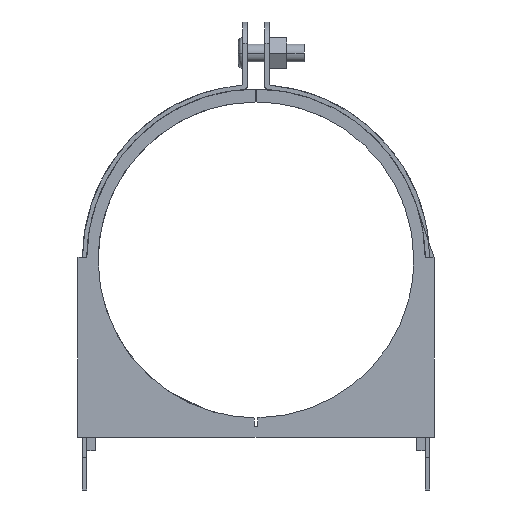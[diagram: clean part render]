
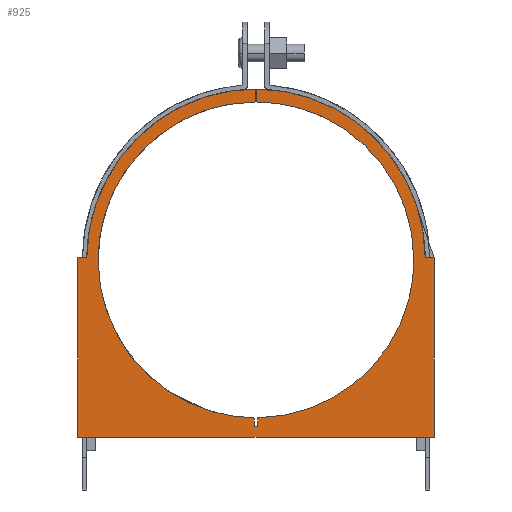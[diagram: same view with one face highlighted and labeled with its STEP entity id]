
A CAD part, front view. The second image highlights one B-rep face of the part: STEP entity #925.
In plain terms, the highlighted planar face has unit normal (0, -1, 0).
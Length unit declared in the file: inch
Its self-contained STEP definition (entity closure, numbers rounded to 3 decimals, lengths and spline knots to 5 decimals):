
#925=ADVANCED_FACE('',(#1836),#1837,.T.);
#1836=FACE_OUTER_BOUND('',#3635,.T.);
#1837=PLANE('',#3636);
#3635=EDGE_LOOP('',(#5039,#5040,#5041,#5042,#5043,#5044,#5045,#5046,#5047,#5048,#5049,#5050,#5051,#5052,#5053,#5054,#5055));
#3636=AXIS2_PLACEMENT_3D('',#5056,#5057,#5058);
#5039=ORIENTED_EDGE('',*,*,#5450,.F.);
#5040=ORIENTED_EDGE('',*,*,#5338,.F.);
#5041=ORIENTED_EDGE('',*,*,#5506,.F.);
#5042=ORIENTED_EDGE('',*,*,#5351,.F.);
#5043=ORIENTED_EDGE('',*,*,#5408,.F.);
#5044=ORIENTED_EDGE('',*,*,#5190,.F.);
#5045=ORIENTED_EDGE('',*,*,#5522,.F.);
#5046=ORIENTED_EDGE('',*,*,#5368,.F.);
#5047=ORIENTED_EDGE('',*,*,#5209,.F.);
#5048=ORIENTED_EDGE('',*,*,#5363,.F.);
#5049=ORIENTED_EDGE('',*,*,#5515,.F.);
#5050=ORIENTED_EDGE('',*,*,#5282,.F.);
#5051=ORIENTED_EDGE('',*,*,#5503,.F.);
#5052=ORIENTED_EDGE('',*,*,#5496,.F.);
#5053=ORIENTED_EDGE('',*,*,#5518,.F.);
#5054=ORIENTED_EDGE('',*,*,#5416,.F.);
#5055=ORIENTED_EDGE('',*,*,#5388,.F.);
#5056=CARTESIAN_POINT('',(2.47504,-0.125,3.05296));
#5057=DIRECTION('',(0.0,-1.0,0.0));
#5058=DIRECTION('',(1.0,0.0,0.0));
#5190=EDGE_CURVE('',#5574,#5575,#5576,.T.);
#5209=EDGE_CURVE('',#5604,#5605,#5606,.T.);
#5282=EDGE_CURVE('',#5724,#5725,#5726,.T.);
#5338=EDGE_CURVE('',#5810,#5811,#5812,.T.);
#5351=EDGE_CURVE('',#5830,#5831,#5832,.T.);
#5363=EDGE_CURVE('',#5847,#5604,#5848,.T.);
#5368=EDGE_CURVE('',#5605,#5854,#5855,.T.);
#5388=EDGE_CURVE('',#5880,#5881,#5882,.T.);
#5408=EDGE_CURVE('',#5575,#5830,#5909,.T.);
#5416=EDGE_CURVE('',#5881,#5919,#5920,.T.);
#5450=EDGE_CURVE('',#5811,#5880,#5961,.T.);
#5496=EDGE_CURVE('',#6011,#6012,#6013,.T.);
#5503=EDGE_CURVE('',#6012,#5724,#6020,.T.);
#5506=EDGE_CURVE('',#5831,#5810,#6023,.T.);
#5515=EDGE_CURVE('',#5725,#5847,#6032,.T.);
#5518=EDGE_CURVE('',#5919,#6011,#6035,.T.);
#5522=EDGE_CURVE('',#5854,#5574,#6039,.T.);
#5574=VERTEX_POINT('',#6100);
#5575=VERTEX_POINT('',#6101);
#5576=LINE('',#6102,#6103);
#5604=VERTEX_POINT('',#6169);
#5605=VERTEX_POINT('',#6170);
#5606=LINE('',#6171,#6172);
#5724=VERTEX_POINT('',#6400);
#5725=VERTEX_POINT('',#6401);
#5726=LINE('',#6402,#6403);
#5810=VERTEX_POINT('',#6548);
#5811=VERTEX_POINT('',#6549);
#5812=B_SPLINE_CURVE_WITH_KNOTS('',3,(#6550,#6551,#6552,#6553),.UNSPECIFIED.,.F.,.F.,(4,4),(0.0,1.0),.UNSPECIFIED.);
#5830=VERTEX_POINT('',#6584);
#5831=VERTEX_POINT('',#6585);
#5832=B_SPLINE_CURVE_WITH_KNOTS('',3,(#6586,#6587,#6588,#6589),.UNSPECIFIED.,.F.,.F.,(4,4),(0.0,1.0),.UNSPECIFIED.);
#5847=VERTEX_POINT('',#6616);
#5848=B_SPLINE_CURVE_WITH_KNOTS('',3,(#6617,#6618,#6619,#6620),.UNSPECIFIED.,.F.,.F.,(4,4),(0.0,1.0),.UNSPECIFIED.);
#5854=VERTEX_POINT('',#6633);
#5855=LINE('',#6634,#6635);
#5880=VERTEX_POINT('',#6679);
#5881=VERTEX_POINT('',#6680);
#5882=LINE('',#6681,#6682);
#5909=B_SPLINE_CURVE_WITH_KNOTS('',3,(#6722,#6723,#6724,#6725),.UNSPECIFIED.,.F.,.F.,(4,4),(0.0,1.0),.UNSPECIFIED.);
#5919=VERTEX_POINT('',#6742);
#5920=LINE('',#6743,#6744);
#5961=LINE('',#6815,#6816);
#6011=VERTEX_POINT('',#6953);
#6012=VERTEX_POINT('',#6954);
#6013=LINE('',#6955,#6956);
#6020=B_SPLINE_CURVE_WITH_KNOTS('',3,(#6968,#6969,#6970,#6971),.UNSPECIFIED.,.F.,.F.,(4,4),(0.0,1.0),.UNSPECIFIED.);
#6023=LINE('',#6974,#6975);
#6032=B_SPLINE_CURVE_WITH_KNOTS('',3,(#6986,#6987,#6988,#6989),.UNSPECIFIED.,.F.,.F.,(4,4),(0.0,1.0),.UNSPECIFIED.);
#6035=LINE('',#6995,#6996);
#6039=LINE('',#7000,#7001);
#6100=CARTESIAN_POINT('',(2.49145,-0.125,0.90272));
#6101=CARTESIAN_POINT('',(2.50285,-0.125,1.03002));
#6102=CARTESIAN_POINT('',(2.49145,-0.125,0.90272));
#6103=VECTOR('',#7037,1.);
#6169=CARTESIAN_POINT('',(2.44596,-0.125,1.03003));
#6170=CARTESIAN_POINT('',(2.46013,-0.125,0.90272));
#6171=CARTESIAN_POINT('',(2.44596,-0.125,1.03003));
#6172=VECTOR('',#7049,1.);
#6400=CARTESIAN_POINT('',(2.4694,-0.125,5.71376));
#6401=CARTESIAN_POINT('',(2.46931,-0.125,5.53));
#6402=CARTESIAN_POINT('',(2.4694,-0.125,5.71376));
#6403=VECTOR('',#7088,1.0);
#6548=CARTESIAN_POINT('',(2.48083,-0.125,5.71377));
#6549=CARTESIAN_POINT('',(4.88757,-0.125,3.31426));
#6550=CARTESIAN_POINT('',(2.48083,-0.125,5.71377));
#6551=CARTESIAN_POINT('',(3.80264,-0.125,5.71057));
#6552=CARTESIAN_POINT('',(4.87061,-0.125,4.63298));
#6553=CARTESIAN_POINT('',(4.88757,-0.125,3.31426));
#6584=CARTESIAN_POINT('',(4.72492,-0.125,3.27999));
#6585=CARTESIAN_POINT('',(2.48084,-0.125,5.53));
#6586=CARTESIAN_POINT('',(4.72492,-0.125,3.27999));
#6587=CARTESIAN_POINT('',(4.72492,-0.125,4.52067));
#6588=CARTESIAN_POINT('',(3.72077,-0.125,5.52681));
#6589=CARTESIAN_POINT('',(2.48084,-0.125,5.53));
#6616=CARTESIAN_POINT('',(0.22491,-0.125,3.27999));
#6617=CARTESIAN_POINT('',(0.22491,-0.125,3.27999));
#6618=CARTESIAN_POINT('',(0.22491,-0.125,2.04707));
#6619=CARTESIAN_POINT('',(1.21673,-0.125,1.04561));
#6620=CARTESIAN_POINT('',(2.44596,-0.125,1.03003));
#6633=CARTESIAN_POINT('',(2.47502,-0.125,0.89826));
#6634=CARTESIAN_POINT('',(2.46013,-0.125,0.90272));
#6635=VECTOR('',#7128,1.0);
#6679=CARTESIAN_POINT('',(5.01269,-0.125,3.31425));
#6680=CARTESIAN_POINT('',(5.01269,-0.125,0.74928));
#6681=CARTESIAN_POINT('',(5.01269,-0.125,3.31425));
#6682=VECTOR('',#7139,1.0);
#6722=CARTESIAN_POINT('',(2.50285,-0.125,1.03002));
#6723=CARTESIAN_POINT('',(3.73268,-0.125,1.04492));
#6724=CARTESIAN_POINT('',(4.72492,-0.125,2.04663));
#6725=CARTESIAN_POINT('',(4.72492,-0.125,3.27999));
#6742=CARTESIAN_POINT('',(-0.06242,-0.125,0.74928));
#6743=CARTESIAN_POINT('',(5.01269,-0.125,0.74928));
#6744=VECTOR('',#7157,1.0);
#6815=CARTESIAN_POINT('',(4.88757,-0.125,3.31426));
#6816=VECTOR('',#7170,1.0);
#6953=CARTESIAN_POINT('',(-0.06242,-0.125,3.31425));
#6954=CARTESIAN_POINT('',(0.06258,-0.125,3.31426));
#6955=CARTESIAN_POINT('',(-0.06242,-0.125,3.31425));
#6956=VECTOR('',#7186,1.);
#6968=CARTESIAN_POINT('',(0.06258,-0.125,3.31426));
#6969=CARTESIAN_POINT('',(0.07954,-0.125,4.63308));
#6970=CARTESIAN_POINT('',(1.14747,-0.125,5.71069));
#6971=CARTESIAN_POINT('',(2.4694,-0.125,5.71376));
#6974=CARTESIAN_POINT('',(2.48084,-0.125,5.53));
#6975=VECTOR('',#7189,1.0);
#6986=CARTESIAN_POINT('',(2.46931,-0.125,5.53));
#6987=CARTESIAN_POINT('',(1.22932,-0.125,5.52688));
#6988=CARTESIAN_POINT('',(0.22491,-0.125,4.52071));
#6989=CARTESIAN_POINT('',(0.22491,-0.125,3.27999));
#6995=CARTESIAN_POINT('',(-0.06242,-0.125,0.74928));
#6996=VECTOR('',#7192,1.0);
#7000=CARTESIAN_POINT('',(2.47502,-0.125,0.89826));
#7001=VECTOR('',#7193,1.);
#7037=DIRECTION('',(0.089,0.0,0.996));
#7049=DIRECTION('',(0.111,0.0,-0.994));
#7088=DIRECTION('',(0.,-0.0,-1.));
#7128=DIRECTION('',(0.958,0.0,-0.287));
#7139=DIRECTION('',(0.0,0.0,-1.0));
#7157=DIRECTION('',(-1.0,0.0,0.0));
#7170=DIRECTION('',(1.,0.0,0.));
#7186=DIRECTION('',(1.,0.0,0.));
#7189=DIRECTION('',(0.,0.0,1.));
#7192=DIRECTION('',(0.0,0.0,1.0));
#7193=DIRECTION('',(0.965,0.0,0.262));
